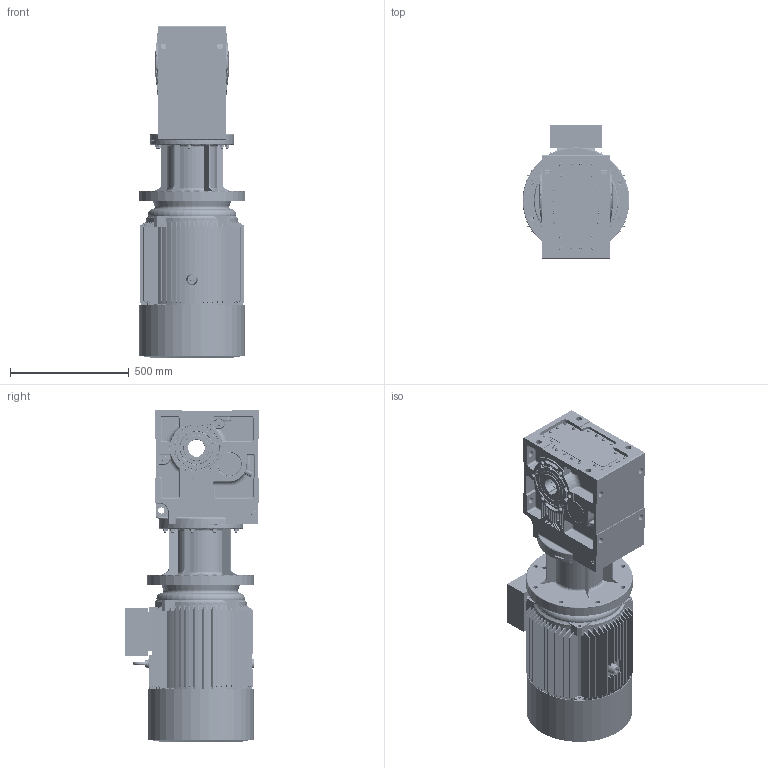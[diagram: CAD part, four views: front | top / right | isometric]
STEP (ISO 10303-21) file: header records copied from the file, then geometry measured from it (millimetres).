
FILE_DESCRIPTION (( 'STEP AP203' ), '1' );
FILE_NAME ('KV_673_0_225S-4.STEP', '2019-07-18T10:28:35', ( '' ), ( '' ), 'SwSTEP 2.0', 'SolidWorks 2012', '' );
FILE_SCHEMA (( 'CONFIG_CONTROL_DESIGN' ));
Products named in the file (12): KV_673_0_225S-4; shaft_225-4; Y2-225+¦i-_-++ñ; 225-2-ª+-_-++ñ; M3-225S-4p-FF-B5; Y2-225SB5+À+¿_-++ñ; Eyebolts GB_GB_FASTENER_SCREWS_FRS M16-N; Y2-200-4.6.8+ª-¯ª­-È®+_-++ñ; ML60A_Varsayìlan; K673_Varsayìlan; 63225B5_Varsayìlan; KN_67_3_0_A-B22_B5_ML60A_0_0_0_0_0_0_0_0_0_0_0_0_M1
Assembly tree (11 placements, depth 3):
  KV_673_0_225S-4
    KN_67_3_0_A-B22_B5_ML60A_0_0_0_0_0_0_0_0_0_0_0_0_M1
      K673_Varsayìlan
      63225B5_Varsayìlan
      ML60A_Varsayìlan
    M3-225S-4p-FF-B5
      Y2-225SB5+À+¿_-++ñ
      Eyebolts GB_GB_FASTENER_SCREWS_FRS M16-N
      Y2-200-4.6.8+ª-¯ª­-È®+_-++ñ
      225-2-ª+-_-++ñ
      Y2-225+¦i-_-++ñ
      shaft_225-4
Bounding box: 450 x 567 x 1400.5 mm (x, y, z)
Volume: 78824681 mm3; surface area: 6625064.4 mm2
Topology: 62 solids, 62 shells, 5930 faces, 14393 edges, 8721 vertices
Faces by surface type: cone 1979, cylinder 1858, plane 1574, torus 351, bspline 159, sphere 9
Entity records: 191416 total; most frequent: CARTESIAN_POINT 49483, DIRECTION 31311, ORIENTED_EDGE 28566, EDGE_CURVE 14283, AXIS2_PLACEMENT_3D 12382, VERTEX_POINT 8715, CIRCLE 6595, LINE 6547
